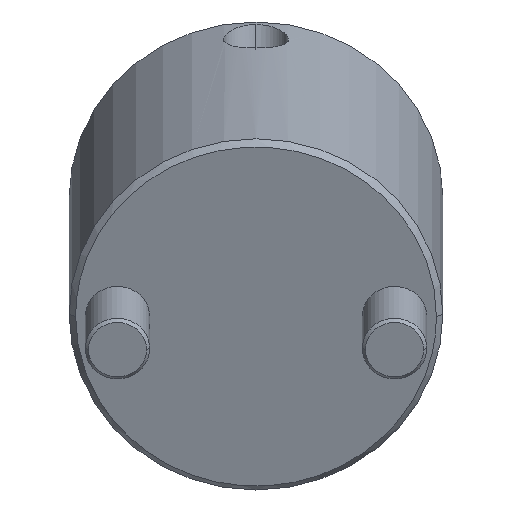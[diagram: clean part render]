
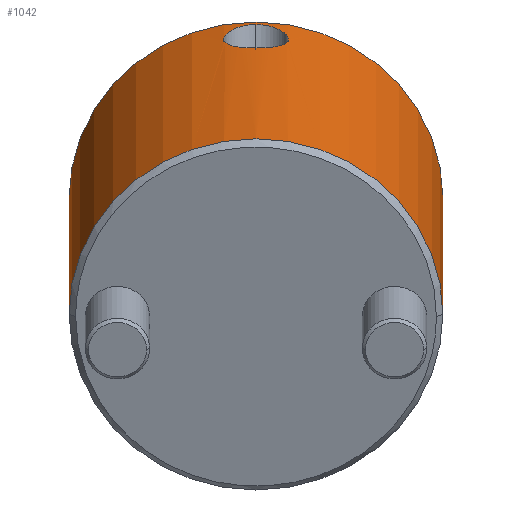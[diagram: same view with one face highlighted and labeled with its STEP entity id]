
A CAD part, front view. The second image highlights one B-rep face of the part: STEP entity #1042.
In plain terms, the highlighted cylindrical face has radius 29 mm (diameter 58 mm), a partial arc.
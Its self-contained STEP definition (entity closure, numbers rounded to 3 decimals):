
#772=CARTESIAN_POINT('Vertex',(0.,29.,1.)) ;
#775=CARTESIAN_POINT('Axis2P3D Location',(0.,0.,1.)) ;
#779=CARTESIAN_POINT('Vertex',(0.,-29.,1.)) ;
#931=CARTESIAN_POINT('Axis2P3D Location',(0.,0.,-2.75)) ;
#936=CARTESIAN_POINT('Line Origine',(0.,29.,-2.75)) ;
#940=CARTESIAN_POINT('Vertex',(0.,29.,54.)) ;
#943=CARTESIAN_POINT('Axis2P3D Location',(0.,0.,54.)) ;
#947=CARTESIAN_POINT('Vertex',(0.,-29.,54.)) ;
#950=CARTESIAN_POINT('Line Origine',(0.,-29.,-2.75)) ;
#962=CARTESIAN_POINT('Control Point',(29.,0.,52.84)) ;
#963=CARTESIAN_POINT('Control Point',(29.,0.41,52.84)) ;
#964=CARTESIAN_POINT('Control Point',(28.993,0.818,52.794)) ;
#965=CARTESIAN_POINT('Control Point',(28.978,1.227,52.698)) ;
#966=CARTESIAN_POINT('Control Point',(28.941,1.922,52.449)) ;
#967=CARTESIAN_POINT('Control Point',(28.888,2.571,52.061)) ;
#968=CARTESIAN_POINT('Control Point',(28.862,2.839,51.869)) ;
#969=CARTESIAN_POINT('Control Point',(28.799,3.437,51.363)) ;
#970=CARTESIAN_POINT('Control Point',(28.732,3.948,50.737)) ;
#971=CARTESIAN_POINT('Control Point',(28.695,4.202,50.348)) ;
#972=CARTESIAN_POINT('Control Point',(28.645,4.527,49.719)) ;
#973=CARTESIAN_POINT('Control Point',(28.608,4.752,49.055)) ;
#974=CARTESIAN_POINT('Control Point',(28.597,4.816,48.831)) ;
#975=CARTESIAN_POINT('Control Point',(28.575,4.947,48.265)) ;
#976=CARTESIAN_POINT('Control Point',(28.565,5.007,47.682)) ;
#977=CARTESIAN_POINT('Control Point',(28.563,5.016,47.333)) ;
#978=CARTESIAN_POINT('Control Point',(28.569,4.98,46.642)) ;
#979=CARTESIAN_POINT('Control Point',(28.593,4.841,45.975)) ;
#980=CARTESIAN_POINT('Control Point',(28.609,4.747,45.653)) ;
#981=CARTESIAN_POINT('Control Point',(28.642,4.548,45.132)) ;
#982=CARTESIAN_POINT('Control Point',(28.682,4.285,44.647)) ;
#983=CARTESIAN_POINT('Control Point',(28.699,4.17,44.461)) ;
#984=CARTESIAN_POINT('Control Point',(28.735,3.921,44.101)) ;
#985=CARTESIAN_POINT('Control Point',(28.772,3.633,43.771)) ;
#986=CARTESIAN_POINT('Control Point',(28.791,3.481,43.613)) ;
#987=CARTESIAN_POINT('Control Point',(28.838,3.081,43.245)) ;
#988=CARTESIAN_POINT('Control Point',(28.882,2.635,42.935)) ;
#989=CARTESIAN_POINT('Control Point',(28.907,2.351,42.77)) ;
#990=CARTESIAN_POINT('Control Point',(28.953,1.732,42.478)) ;
#991=CARTESIAN_POINT('Control Point',(28.983,1.071,42.295)) ;
#992=CARTESIAN_POINT('Control Point',(28.994,0.716,42.231)) ;
#993=CARTESIAN_POINT('Control Point',(29.,0.359,42.199)) ;
#994=CARTESIAN_POINT('Control Point',(29.,0.,42.199)) ;
#995=CARTESIAN_POINT('Vertex',(29.,0.,52.84)) ;
#997=CARTESIAN_POINT('Vertex',(29.,0.,42.199)) ;
#1001=CARTESIAN_POINT('Control Point',(29.,0.,42.199)) ;
#1002=CARTESIAN_POINT('Control Point',(29.,-0.436,42.199)) ;
#1003=CARTESIAN_POINT('Control Point',(28.992,-0.867,42.246)) ;
#1004=CARTESIAN_POINT('Control Point',(28.976,-1.295,42.34)) ;
#1005=CARTESIAN_POINT('Control Point',(28.941,-1.914,42.55)) ;
#1006=CARTESIAN_POINT('Control Point',(28.894,-2.488,42.857)) ;
#1007=CARTESIAN_POINT('Control Point',(28.877,-2.675,42.971)) ;
#1008=CARTESIAN_POINT('Control Point',(28.842,-3.033,43.216)) ;
#1009=CARTESIAN_POINT('Control Point',(28.805,-3.362,43.5)) ;
#1010=CARTESIAN_POINT('Control Point',(28.786,-3.519,43.651)) ;
#1011=CARTESIAN_POINT('Control Point',(28.749,-3.816,43.971)) ;
#1012=CARTESIAN_POINT('Control Point',(28.712,-4.078,44.322)) ;
#1013=CARTESIAN_POINT('Control Point',(28.695,-4.199,44.506)) ;
#1014=CARTESIAN_POINT('Control Point',(28.662,-4.421,44.885)) ;
#1015=CARTESIAN_POINT('Control Point',(28.633,-4.603,45.289)) ;
#1016=CARTESIAN_POINT('Control Point',(28.619,-4.683,45.497)) ;
#1017=CARTESIAN_POINT('Control Point',(28.596,-4.822,45.92)) ;
#1018=CARTESIAN_POINT('Control Point',(28.58,-4.917,46.36)) ;
#1019=CARTESIAN_POINT('Control Point',(28.574,-4.953,46.587)) ;
#1020=CARTESIAN_POINT('Control Point',(28.561,-5.028,47.275)) ;
#1021=CARTESIAN_POINT('Control Point',(28.566,-4.996,47.975)) ;
#1022=CARTESIAN_POINT('Control Point',(28.579,-4.925,48.442)) ;
#1023=CARTESIAN_POINT('Control Point',(28.618,-4.698,49.344)) ;
#1024=CARTESIAN_POINT('Control Point',(28.682,-4.293,50.19)) ;
#1025=CARTESIAN_POINT('Control Point',(28.718,-4.047,50.593)) ;
#1026=CARTESIAN_POINT('Control Point',(28.775,-3.624,51.146)) ;
#1027=CARTESIAN_POINT('Control Point',(28.831,-3.134,51.614)) ;
#1028=CARTESIAN_POINT('Control Point',(28.849,-2.966,51.757)) ;
#1029=CARTESIAN_POINT('Control Point',(28.883,-2.617,52.025)) ;
#1030=CARTESIAN_POINT('Control Point',(28.914,-2.245,52.25)) ;
#1031=CARTESIAN_POINT('Control Point',(28.928,-2.056,52.352)) ;
#1032=CARTESIAN_POINT('Control Point',(28.962,-1.546,52.588)) ;
#1033=CARTESIAN_POINT('Control Point',(28.985,-1.013,52.743)) ;
#1034=CARTESIAN_POINT('Control Point',(28.995,-0.674,52.809)) ;
#1035=CARTESIAN_POINT('Control Point',(29.,-0.337,52.84)) ;
#1036=CARTESIAN_POINT('Control Point',(29.,0.,52.84)) ;
#776=DIRECTION('Axis2P3D Direction',(0.,0.,1.)) ;
#932=DIRECTION('Axis2P3D Direction',(0.,-0.,1.)) ;
#933=DIRECTION('Axis2P3D XDirection',(0.,-1.,0.)) ;
#937=DIRECTION('Vector Direction',(0.,0.,1.)) ;
#944=DIRECTION('Axis2P3D Direction',(0.,-0.,1.)) ;
#951=DIRECTION('Vector Direction',(0.,0.,1.)) ;
#777=AXIS2_PLACEMENT_3D('Circle Axis2P3D',#775,#776,$) ;
#934=AXIS2_PLACEMENT_3D('Cylinder Axis2P3D',#931,#932,#933) ;
#945=AXIS2_PLACEMENT_3D('Circle Axis2P3D',#943,#944,$) ;
#956=ORIENTED_EDGE('',*,*,#942,.F.) ;
#957=ORIENTED_EDGE('',*,*,#949,.T.) ;
#958=ORIENTED_EDGE('',*,*,#954,.T.) ;
#959=ORIENTED_EDGE('',*,*,#781,.F.) ;
#1039=ORIENTED_EDGE('',*,*,#999,.T.) ;
#1040=ORIENTED_EDGE('',*,*,#1037,.T.) ;
#1041=FACE_BOUND('',#1038,.T.) ;
#938=VECTOR('Line Direction',#937,1.) ;
#952=VECTOR('Line Direction',#951,1.) ;
#1042=ADVANCED_FACE('MANIFOLD_SOLID_BREP #1144',(#960,#1041),#935,.T.) ;
#961=B_SPLINE_CURVE_WITH_KNOTS('',5,(#962,#963,#964,#965,#966,#967,#968,#969,#970,#971,#972,#973,#974,#975,#976,#977,#978,#979,#980,#981,#982,#983,#984,#985,#986,#987,#988,#989,#990,#991,#992,#993,#994),.UNSPECIFIED.,.F.,.U.,(6,3,3,3,3,3,3,3,3,3,6),(0.,3.082,5.432,8.625,10.233,12.595,14.944,16.512,18.076,20.419,22.998),.UNSPECIFIED.) ;
#1000=B_SPLINE_CURVE_WITH_KNOTS('',5,(#1001,#1002,#1003,#1004,#1005,#1006,#1007,#1008,#1009,#1010,#1011,#1012,#1013,#1014,#1015,#1016,#1017,#1018,#1019,#1020,#1021,#1022,#1023,#1024,#1025,#1026,#1027,#1028,#1029,#1030,#1031,#1032,#1033,#1034,#1035,#1036),.UNSPECIFIED.,.F.,.U.,(6,3,3,3,3,3,3,3,3,3,3,6),(0.,3.127,4.689,6.255,7.819,9.384,10.947,14.13,17.316,18.889,20.449,22.99),.UNSPECIFIED.) ;
#778=CIRCLE('generated circle',#777,29.) ;
#946=CIRCLE('generated circle',#945,29.) ;
#935=CYLINDRICAL_SURFACE('generated cylinder',#934,29.) ;
#781=EDGE_CURVE('',#773,#780,#778,.F.) ;
#942=EDGE_CURVE('',#941,#773,#939,.F.) ;
#949=EDGE_CURVE('',#941,#948,#946,.F.) ;
#954=EDGE_CURVE('',#948,#780,#953,.F.) ;
#999=EDGE_CURVE('',#996,#998,#961,.T.) ;
#1037=EDGE_CURVE('',#998,#996,#1000,.T.) ;
#955=EDGE_LOOP('',(#956,#957,#958,#959)) ;
#1038=EDGE_LOOP('',(#1039,#1040)) ;
#960=FACE_OUTER_BOUND('',#955,.T.) ;
#939=LINE('Line',#936,#938) ;
#953=LINE('Line',#950,#952) ;
#773=VERTEX_POINT('',#772) ;
#780=VERTEX_POINT('',#779) ;
#941=VERTEX_POINT('',#940) ;
#948=VERTEX_POINT('',#947) ;
#996=VERTEX_POINT('',#995) ;
#998=VERTEX_POINT('',#997) ;
